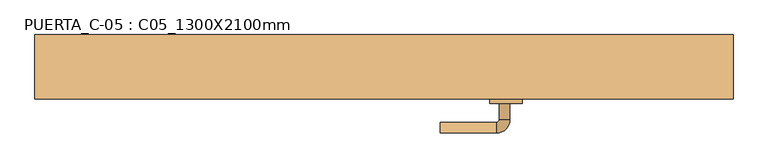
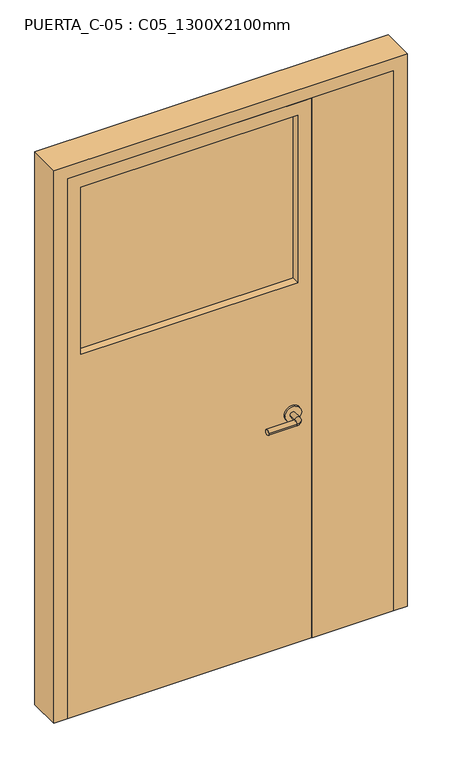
"""IFC4 building model written with IfcOpenShell, lengths in millimetres: door geometry, PUERTA_C-05 : C05_1300X2100mm."""

from ifc_helpers import new_model, si_unit, point, frame, frame_2d, origin, origin_with_axes, place, context, project, spatial, polyline, circle_curve, ellipse_curve, trimmed, segment, composite_curve, outline, extrude, faceted_brep, source, transform, mapped, element, save
from ifc_brep_helpers import plane_surface, cylinder_surface, revolved_surface, advanced_brep


def puerta_c_05_c05_1300x2100mm_d7b40a2c(model_context):
    return source(origin(), model_context, "Body", "SolidModel", [
        advanced_brep(
        [(234.59375, -18.35, 900.0), (214.59375, -18.35, 900.0), (214.59375, 11.65, 900.0), (234.59375, 11.65, 900.0), (209.59375, 16.65, 900.0), (209.59375, 36.65, 900.0), (104.59375, 36.65, 900.0), (104.59375, 16.65, 900.0)],
        [
            (0, 1, circle_curve(frame((224.59375, -18.35, 900.0), z_axis=(0.0, -1.0, 0.0), x_axis=(-1.0, 0.0, 0.0)), 10.0)),
            (1, 0, circle_curve(frame((224.59375, -18.35, 900.0), z_axis=(0.0, -1.0, 0.0), x_axis=(-1.0, 0.0, 0.0)), 10.0)),
            (1, 2),
            (2, 3, circle_curve(frame((224.59375, 11.65, 900.0), z_axis=(0.0, -1.0, 0.0), x_axis=(-1.0, 0.0, 0.0)), 10.0)),
            (3, 0),
            (3, 2, circle_curve(frame((224.59375, 11.65, 900.0), z_axis=(0.0, -1.0, 0.0), x_axis=(-1.0, 0.0, 0.0)), 10.0)),
            (4, 5, circle_curve(frame((209.59375, 26.65, 900.0), z_axis=(1.0, 0.0, 0.0), x_axis=(0.0, -1.0, 0.0)), 10.0)),
            (5, 3, circle_curve(frame((209.59375, 11.65, 900.0), z_axis=(0.0, 0.0, -1.0), x_axis=(1.0, 0.0, 0.0)), 25.0)),
            (2, 4, circle_curve(frame((209.59375, 11.65, 900.0), z_axis=(0.0, 0.0, 1.0), x_axis=(1.0, 0.0, 0.0)), 5.0)),
            (5, 4, circle_curve(frame((209.59375, 26.65, 900.0), z_axis=(1.0, 0.0, 0.0), x_axis=(0.0, -1.0, 0.0)), 10.0)),
            (6, 7, circle_curve(frame((104.59375, 26.65, 900.0), z_axis=(-1.0, 0.0, 0.0), x_axis=(0.0, -1.0, 0.0)), 10.0)),
            (7, 6, circle_curve(frame((104.59375, 26.65, 900.0), z_axis=(-1.0, 0.0, 0.0), x_axis=(0.0, -1.0, 0.0)), 10.0)),
            (4, 7),
            (6, 5),
        ],
        [
            plane_surface(frame((224.59375, -18.35, 900.0), z_axis=(0.0, -1.0, 0.0), x_axis=(0.0, 0.0, 1.0))),
            cylinder_surface(frame((224.59375, -18.35, 900.0), z_axis=(0.0, -1.0, 0.0), x_axis=(-1.0, 0.0, 0.0)), 10.0),
            revolved_surface(trimmed(ellipse_curve(frame((224.59375, 11.65, 900.0), z_axis=(0.0, 1.0, 0.0), x_axis=(-1.0, 0.0, 0.0)), 10.0, 10.0), [point((234.59375, 11.65, 900.0))], [point((214.59375, 11.65, 900.0))], True, "CARTESIAN"), (209.59375, 11.65, 900.0), (0.0, 0.0, -1.0)),
            revolved_surface(trimmed(ellipse_curve(frame((224.59375, 11.65, 900.0), z_axis=(0.0, 1.0, 0.0), x_axis=(-1.0, 0.0, 0.0)), 10.0, 10.0), [point((214.59375, 11.65, 900.0))], [point((234.59375, 11.65, 900.0))], True, "CARTESIAN"), (209.59375, 11.65, 900.0), (0.0, 0.0, -1.0)),
            plane_surface(frame((104.59375, 26.65, 900.0), z_axis=(-1.0, 0.0, 0.0), x_axis=(0.0, 0.0, 1.0))),
            cylinder_surface(frame((209.59375, 26.65, 900.0), z_axis=(1.0, 0.0, 0.0), x_axis=(0.0, -1.0, 0.0)), 10.0),
        ],
        [
            (0, [[1, 2]]),
            (1, [[3, 4, 5, -2]]),
            (1, [[-5, 6, -3, -1]]),
            (2, [[7, 8, -4, 9]]),
            (3, [[10, -9, -6, -8]]),
            (4, [[11, 12]]),
            (5, [[13, -11, 14, -7]]),
            (5, [[-14, -12, -13, -10]]),
        ],
    ),
        extrude(outline(composite_curve([segment(trimmed(circle_curve(frame_2d((900.0, 227.09375)), 30.0), [point((900.0, 257.09375))], [point((900.0, 197.09375))], False, "CARTESIAN"), True, "CONTINUOUS"), segment(trimmed(circle_curve(frame_2d((900.0, 227.09375)), 30.0), [point((900.0, 197.09375))], [point((900.0, 257.09375))], False, "CARTESIAN"), True, "CONTINUOUS")], self_intersect=False)), frame((0.0, -26.35, 0.0), z_axis=(0.0, 1.0, 0.0), x_axis=(0.0, 0.0, 1.0)), (0.0, 0.0, 1.0), 8.0),
        advanced_brep(
        [(234.59375, -74.35, 900.0), (214.59375, -74.35, 900.0), (234.59375, -104.35, 900.0), (214.59375, -104.35, 900.0), (209.59375, -109.35, 900.0), (209.59375, -129.35, 900.0), (104.59375, -129.35, 900.0), (104.59375, -109.35, 900.0)],
        [
            (0, 1, circle_curve(frame((224.59375, -74.35, 900.0), z_axis=(0.0, 1.0, 0.0), x_axis=(-1.0, 0.0, 0.0)), 10.0)),
            (1, 0, circle_curve(frame((224.59375, -74.35, 900.0), z_axis=(0.0, 1.0, 0.0), x_axis=(-1.0, 0.0, 0.0)), 10.0)),
            (0, 2),
            (2, 3, circle_curve(frame((224.59375, -104.35, 900.0), z_axis=(0.0, 1.0, 0.0), x_axis=(-1.0, 0.0, 0.0)), 10.0)),
            (3, 1),
            (3, 2, circle_curve(frame((224.59375, -104.35, 900.0), z_axis=(0.0, 1.0, 0.0), x_axis=(-1.0, 0.0, 0.0)), 10.0)),
            (4, 3, circle_curve(frame((209.59375, -104.35, 900.0), z_axis=(0.0, 0.0, 1.0), x_axis=(1.0, 0.0, 0.0)), 5.0)),
            (2, 5, circle_curve(frame((209.59375, -104.35, 900.0), z_axis=(0.0, 0.0, -1.0), x_axis=(1.0, 0.0, 0.0)), 25.0)),
            (5, 4, circle_curve(frame((209.59375, -119.35, 900.0), z_axis=(1.0, 0.0, 0.0), x_axis=(0.0, 1.0, 0.0)), 10.0)),
            (4, 5, circle_curve(frame((209.59375, -119.35, 900.0), z_axis=(1.0, 0.0, 0.0), x_axis=(0.0, 1.0, 0.0)), 10.0)),
            (6, 7, circle_curve(frame((104.59375, -119.35, 900.0), z_axis=(-1.0, 0.0, 0.0), x_axis=(0.0, 1.0, 0.0)), 10.0)),
            (7, 6, circle_curve(frame((104.59375, -119.35, 900.0), z_axis=(-1.0, 0.0, 0.0), x_axis=(0.0, 1.0, 0.0)), 10.0)),
            (5, 6),
            (7, 4),
        ],
        [
            plane_surface(frame((224.59375, -74.35, 900.0), z_axis=(0.0, 1.0, 0.0), x_axis=(0.0, 0.0, 1.0))),
            cylinder_surface(frame((224.59375, -74.35, 900.0), z_axis=(0.0, 1.0, 0.0), x_axis=(-1.0, 0.0, 0.0)), 10.0),
            revolved_surface(trimmed(ellipse_curve(frame((224.59375, -104.35, 900.0), z_axis=(0.0, 1.0, 0.0), x_axis=(-1.0, 0.0, 0.0)), 10.0, 10.0), [point((234.59375, -104.35, 900.0))], [point((214.59375, -104.35, 900.0))], True, "CARTESIAN"), (209.59375, -104.35, 900.0), (0.0, 0.0, -1.0)),
            revolved_surface(trimmed(ellipse_curve(frame((224.59375, -104.35, 900.0), z_axis=(0.0, 1.0, 0.0), x_axis=(-1.0, 0.0, 0.0)), 10.0, 10.0), [point((214.59375, -104.35, 900.0))], [point((234.59375, -104.35, 900.0))], True, "CARTESIAN"), (209.59375, -104.35, 900.0), (0.0, 0.0, -1.0)),
            plane_surface(frame((104.59375, -119.35, 900.0), z_axis=(-1.0, 0.0, 0.0), x_axis=(0.0, 0.0, 1.0))),
            cylinder_surface(frame((209.59375, -119.35, 900.0), z_axis=(1.0, 0.0, 0.0), x_axis=(0.0, 1.0, 0.0)), 10.0),
        ],
        [
            (0, [[1, 2]]),
            (1, [[-1, 3, 4, 5]]),
            (1, [[-2, -5, 6, -3]]),
            (2, [[7, -4, 8, 9]]),
            (3, [[-8, -6, -7, 10]]),
            (4, [[11, 12]]),
            (5, [[-9, 13, -12, 14]]),
            (5, [[-10, -14, -11, -13]]),
        ],
    ),
        extrude(outline(composite_curve([segment(trimmed(circle_curve(frame_2d((900.0, 227.09375)), 30.0), [point((900.0, 257.09375))], [point((900.0, 197.09375))], False, "CARTESIAN"), True, "CONTINUOUS"), segment(trimmed(circle_curve(frame_2d((900.0, 227.09375)), 30.0), [point((900.0, 197.09375))], [point((900.0, 257.09375))], False, "CARTESIAN"), True, "CONTINUOUS")], self_intersect=False)), frame((0.0, -74.35, 0.0), z_axis=(0.0, 1.0, 0.0), x_axis=(0.0, 0.0, 1.0)), (0.0, 0.0, 1.0), 8.0),
        extrude(outline(polyline([(-550.0, -36.35), (-550.0, -26.35), (248.4, -26.35), (248.4, -36.35), (-550.0, -36.35)])), frame((0.0, 0.0, 1400.0), z_axis=(0.0, 0.0, 1.0), x_axis=(1.0, 0.0, 0.0)), (0.0, 0.0, 1.0), 650.0),
        extrude(outline(polyline([(600.0, -26.35), (600.0, -66.35), (301.6, -66.35), (301.6, -26.35), (600.0, -26.35)])), origin_with_axes(), (0.0, 0.0, 1.0), 2100.0),
        faceted_brep([(600.0, -21.5875, 0.0), (584.125, -21.5875, 0.0), (584.125, 4.4375, 0.0), (600.0, 4.4375, 0.0), (600.0, 53.65, 0.0), (650.0, 53.65, 0.0), (650.0, -66.35, 0.0), (600.0, -66.35, 0.0), (600.0, -66.35, 2100.0), (600.0, -21.5875, 2100.0), (650.0, -66.35, 2150.0), (-650.0, -66.35, 2150.0), (-650.0, -66.35, 0.0), (-600.0, -66.35, 0.0), (-600.0, -66.35, 2100.0), (650.0, 53.65, 2150.0), (600.0, 53.65, 2100.0), (-600.0, 53.65, 2100.0), (-600.0, 53.65, 0.0), (-650.0, 53.65, 0.0), (-650.0, 53.65, 2150.0), (600.0, 4.4375, 2100.0), (584.125, 4.4375, 2084.125), (-584.125, 4.4375, 2084.125), (-584.125, 4.4375, 0.0), (-600.0, 4.4375, 0.0), (-600.0, 4.4375, 2100.0), (584.125, -21.5875, 2084.125), (-600.0, -21.5875, 2100.0), (-600.0, -21.5875, 0.0), (-584.125, -21.5875, 0.0), (-584.125, -21.5875, 2084.125)], [[[0, 1, 2, 3, 4, 5, 6, 7]], [[7, 8, 9, 0]], [[6, 10, 11, 12, 13, 14, 8, 7]], [[5, 15, 10, 6]], [[4, 16, 17, 18, 19, 20, 15, 5]], [[3, 21, 16, 4]], [[2, 22, 23, 24, 25, 26, 21, 3]], [[1, 27, 22, 2]], [[0, 9, 28, 29, 30, 31, 27, 1]], [[8, 14, 28, 9]], [[15, 20, 11, 10]], [[21, 26, 17, 16]], [[27, 31, 23, 22]], [[29, 13, 12, 19, 18, 25, 24, 30]], [[14, 13, 29, 28]], [[20, 19, 12, 11]], [[26, 25, 18, 17]], [[31, 30, 24, 23]]]),
        extrude(outline(polyline([(2100.0, -600.0), (0.0, -600.0), (0.0, 298.4), (2100.0, 298.4), (2100.0, -600.0)]), holes=[polyline([(1400.0, 248.4), (1400.0, -550.0), (2050.0, -550.0), (2050.0, 248.4), (1400.0, 248.4)])]), frame((0.0, -66.35, 0.0), z_axis=(0.0, 1.0, 0.0), x_axis=(0.0, 0.0, 1.0)), (0.0, 0.0, 1.0), 40.0),
    ])


if __name__ == "__main__":
    model = new_model("IFC4")
    model_context = context("Model", 3, world=origin())
    ifc_project = project(units=[si_unit("LENGTHUNIT", "METRE", prefix="MILLI")], contexts=[model_context])
    site = spatial("IfcSite", under=ifc_project)
    building = spatial("IfcBuilding", under=site)
    placement = place(None, origin())
    puerta_c_05_c05_1300x2100mm_shape = puerta_c_05_c05_1300x2100mm_d7b40a2c(model_context)
    element("IfcDoor", 1, ObjectType="PUERTA_C-05 : C05_1300X2100mm", at=placement, inside=building, context=model_context, shape_type="MappedRepresentation", body=[
        mapped(puerta_c_05_c05_1300x2100mm_shape, transform((0.0, 0.0, 0.0), x_axis=(1.0, 0.0, 0.0), y_axis=(0.0, 1.0, 0.0), z_axis=(0.0, 0.0, 1.0))),
    ])
    save(model, "model.ifc")
